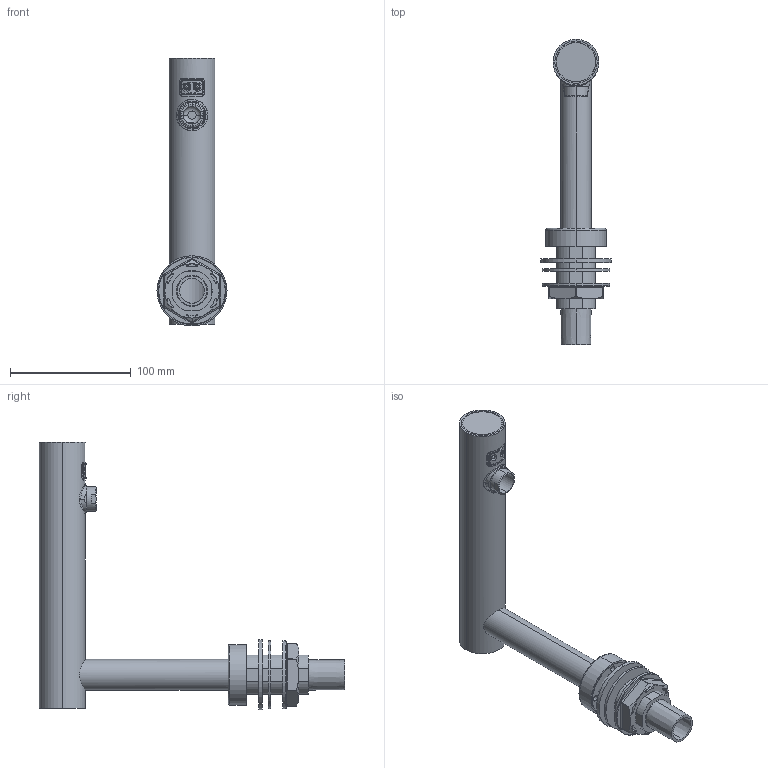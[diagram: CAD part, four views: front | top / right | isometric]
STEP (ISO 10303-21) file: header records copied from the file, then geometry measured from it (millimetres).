
FILE_DESCRIPTION (( 'STEP AP214' ), '1' );
FILE_NAME ('1.STEP', '2019-03-15T09:12:31', ( 'USER' ), ( '' ), 'SwSTEP 2.0', 'SolidWorks 2011', '' );
FILE_SCHEMA (( 'AUTOMOTIVE_DESIGN' ));
Length unit declared in the file: millimetre
Products named in the file (19): Tap出水口座上蓋_A1; EcoTap出風管封板_35D_Default; EcoTap出風管導光塞頭飾板_Default; EcoTap細排出風口LED_Default; EcoTap出風管導光塞頭_Default; EcoTap細排出風口Sensor_Default; M20水龍頭起泡頭銅件; Tap出水口座_A2_10度; Tap出水口迫緊_A2_Default; Tap檯面式出水管_38D-220_Default; 進風管華司; 進風管固定螺帽_Default; EcoTap華司; EcoTap墊片; EcoTap檯面式出風管固定片; EcoTap檯面式出風管飾板_Default; EcoTap檯面式出風管_25D-157_Default; 檯面式EcoTap出風管座; 1
Assembly tree (18 placements, depth 2):
  1
    EcoTap細排出風口Sensor_Default
    進風管固定螺帽_Default
    M20水龍頭起泡頭銅件
    Tap出水口座_A2_10度
    Tap出水口迫緊_A2_Default
    EcoTap出風管導光塞頭_Default
    EcoTap檯面式出風管固定片
    EcoTap墊片
    檯面式EcoTap出風管座
    Tap檯面式出水管_38D-220_Default
    EcoTap出風管導光塞頭飾板_Default
    EcoTap檯面式出風管_25D-157_Default
    EcoTap細排出風口LED_Default
    Tap出水口座上蓋_A1
    進風管華司
    EcoTap出風管封板_35D_Default
    EcoTap檯面式出風管飾板_Default
    EcoTap華司
Bounding box: 58 x 252.4 x 221.4 mm (x, y, z)
Volume: 168146.6 mm3; surface area: 151454.6 mm2
Topology: 18 solids, 18 shells, 1090 faces, 2831 edges, 1846 vertices
Faces by surface type: plane 527, cylinder 228, cone 183, bspline 105, torus 43, sphere 4
Entity records: 45872 total; most frequent: CARTESIAN_POINT 19652, ORIENTED_EDGE 5650, DIRECTION 4785, EDGE_CURVE 2825, VERTEX_POINT 1842, AXIS2_PLACEMENT_3D 1711, LINE 1363, VECTOR 1363
